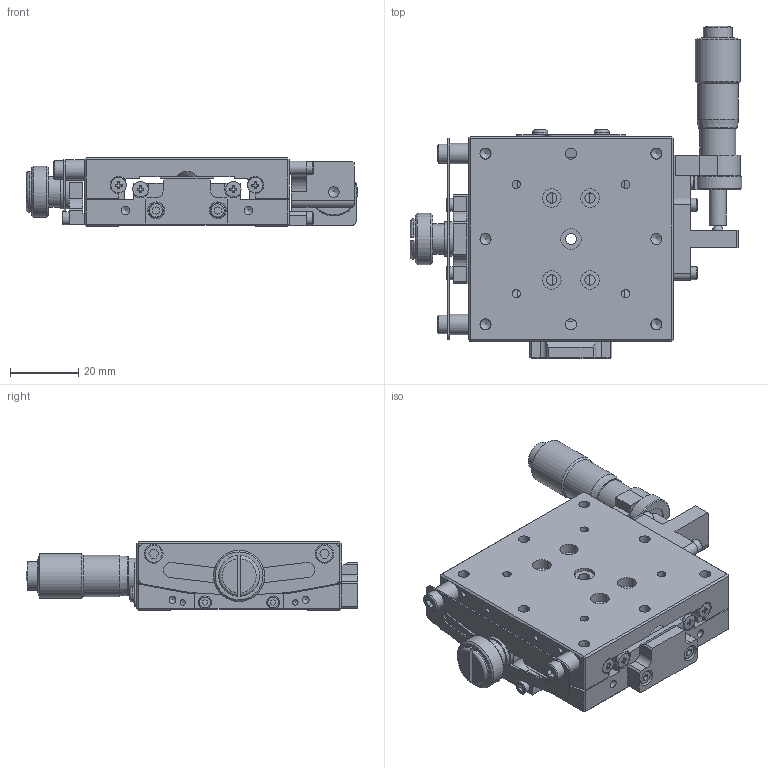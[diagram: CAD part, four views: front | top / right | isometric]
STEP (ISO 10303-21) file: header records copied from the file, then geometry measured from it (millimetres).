
FILE_DESCRIPTION((''),'2;1');
FILE_NAME('Y:\3DDATA\2_OpticalHard\01_国内製品\1_Stags\GOHT\60 ﾏｲｸﾛ式\GOHT-60A105BMS\GOHT-60A105BMS.stp','2014-02-24T11:07:11',('usernoto011'),(''),'Autodesk Inventor 2008','Autodesk Inventor 2008','');
FILE_SCHEMA(('AUTOMOTIVE_DESIGN { 1 0 10303 214 1 1 1 1 }'));
Length unit declared in the file: millimetre
Products named in the file (3): GOHT60A105BMS-M02-13001-TS01; GOHT60A105BMS-M02-13001-S09; GOHT60A105BMS-M02-13001-S10
Assembly tree (2 placements, depth 2):
  GOHT60A105BMS-M02-13001-TS01
    GOHT60A105BMS-M02-13001-S09
    GOHT60A105BMS-M02-13001-S10
Bounding box: 96.98 x 97.17 x 20 mm (x, y, z)
Volume: 65164.6 mm3; surface area: 35678.7 mm2
Topology: 3 solids, 44 shells, 923 faces, 2273 edges, 1480 vertices
Faces by surface type: plane 514, bspline 195, cylinder 136, cone 57, sphere 13, torus 8
Full cylindrical faces by diameter (mm): 1.5 x8, 1.6 x1, 2 x6, 2.5 x4, 3 x2, 3.1 x2, 3.242 x1, 3.8 x6, 4 x2, 4.3 x1, 4.5 x10, 4.6 x1, 5 x2, 5.2 x1, 5.5 x2, 6 x2, 7.3 x2, 7.5 x1, 8 x1, 8.5 x2, 9 x2, 9.9 x1, 10 x2, 10.5 x1, 10.7 x1, 12.1 x1, 13.1 x1, 15 x1
Entity records: 28752 total; most frequent: CARTESIAN_POINT 9265, DIRECTION 3906, ORIENTED_EDGE 3630, EDGE_CURVE 1815, AXIS2_PLACEMENT_3D 1448, EDGE_LOOP 1351, VERTEX_POINT 1317, VECTOR 1010
